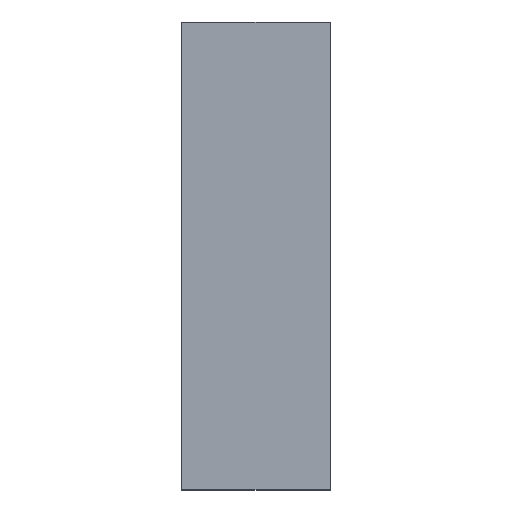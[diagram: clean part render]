
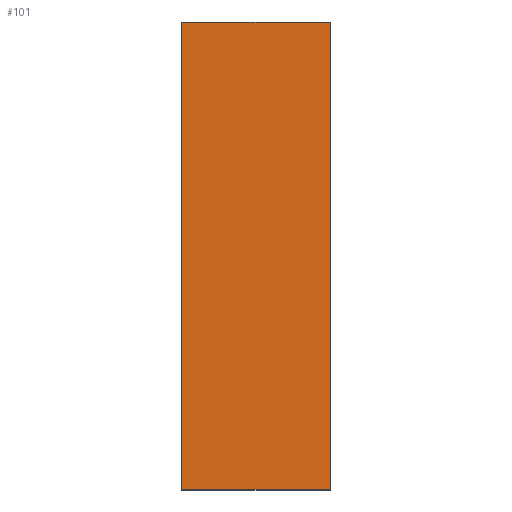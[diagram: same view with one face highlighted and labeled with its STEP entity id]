
A CAD part, top view. The second image highlights one B-rep face of the part: STEP entity #101.
In plain terms, the highlighted planar face has unit normal (0, 0, 1).
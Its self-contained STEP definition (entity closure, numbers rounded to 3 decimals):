
#74=AXIS2_PLACEMENT_3D('Plane Axis2P3D',#71,#72,#73) ;
#49=CARTESIAN_POINT('Vertex',(0.,0.,0.7)) ;
#52=CARTESIAN_POINT('Line Origine',(0.,25.4,0.7)) ;
#56=CARTESIAN_POINT('Vertex',(0.,50.8,0.7)) ;
#71=CARTESIAN_POINT('Axis2P3D Location',(16.1,25.4,0.7)) ;
#76=CARTESIAN_POINT('Line Origine',(8.05,0.,0.7)) ;
#80=CARTESIAN_POINT('Vertex',(16.1,0.,0.7)) ;
#83=CARTESIAN_POINT('Line Origine',(16.1,25.4,0.7)) ;
#87=CARTESIAN_POINT('Vertex',(16.1,50.8,0.7)) ;
#90=CARTESIAN_POINT('Line Origine',(8.05,50.8,0.7)) ;
#53=DIRECTION('Vector Direction',(0.,1.,0.)) ;
#72=DIRECTION('Axis2P3D Direction',(0.,0.,-1.)) ;
#73=DIRECTION('Axis2P3D XDirection',(-1.,0.,0.)) ;
#77=DIRECTION('Vector Direction',(-1.,0.,0.)) ;
#84=DIRECTION('Vector Direction',(0.,1.,0.)) ;
#91=DIRECTION('Vector Direction',(-1.,0.,0.)) ;
#54=VECTOR('Line Direction',#53,1.) ;
#78=VECTOR('Line Direction',#77,1.) ;
#85=VECTOR('Line Direction',#84,1.) ;
#92=VECTOR('Line Direction',#91,1.) ;
#96=ORIENTED_EDGE('',*,*,#58,.F.) ;
#97=ORIENTED_EDGE('',*,*,#82,.T.) ;
#98=ORIENTED_EDGE('',*,*,#89,.T.) ;
#99=ORIENTED_EDGE('',*,*,#94,.F.) ;
#101=ADVANCED_FACE('S3D - gedreht',(#100),#75,.F.) ;
#58=EDGE_CURVE('',#50,#57,#55,.T.) ;
#82=EDGE_CURVE('',#50,#81,#79,.F.) ;
#89=EDGE_CURVE('',#81,#88,#86,.T.) ;
#94=EDGE_CURVE('',#57,#88,#93,.F.) ;
#95=EDGE_LOOP('',(#96,#97,#98,#99)) ;
#100=FACE_OUTER_BOUND('',#95,.T.) ;
#55=LINE('Line',#52,#54) ;
#79=LINE('Line',#76,#78) ;
#86=LINE('Line',#83,#85) ;
#93=LINE('Line',#90,#92) ;
#75=PLANE('',#74) ;
#50=VERTEX_POINT('',#49) ;
#57=VERTEX_POINT('',#56) ;
#81=VERTEX_POINT('',#80) ;
#88=VERTEX_POINT('',#87) ;
